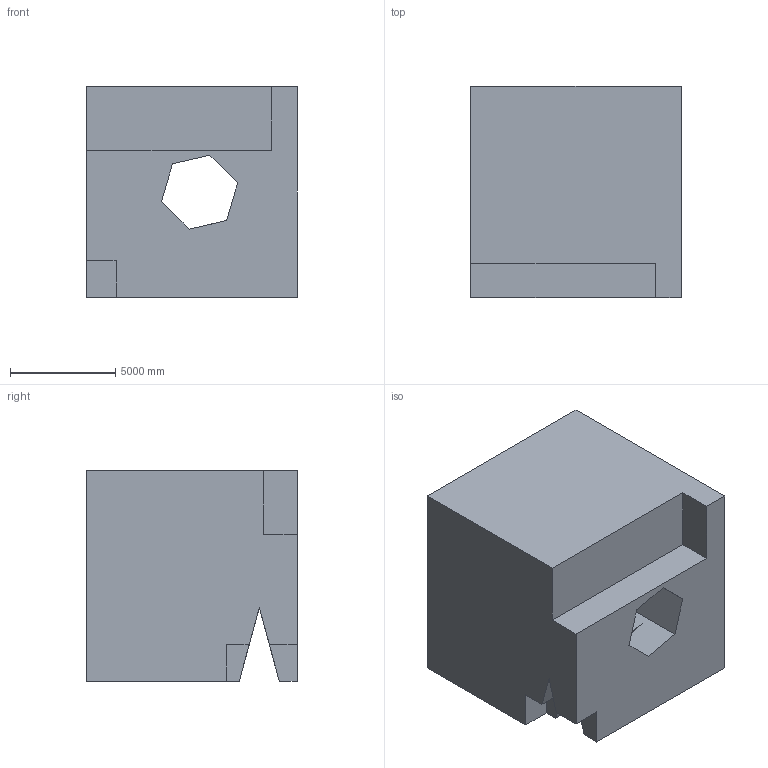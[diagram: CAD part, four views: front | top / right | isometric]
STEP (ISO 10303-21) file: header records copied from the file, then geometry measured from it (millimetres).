
FILE_DESCRIPTION (( 'STEP AP203' ), '1' );
FILE_NAME ('381.STEP', '2022-07-29T11:04:10', ( 'user' ), ( '' ), 'SwSTEP 2.0', 'SolidWorks 2021', '' );
FILE_SCHEMA (( 'CONFIG_CONTROL_DESIGN' ));
Length unit declared in the file: centimetre
Products named in the file (1): 381
Bounding box: 10000 x 10000 x 10000 mm (x, y, z)
Volume: 830613607586.9 mm3; surface area: 735789269 mm2
Topology: 1 solids, 1 shells, 23 faces, 69 edges, 46 vertices
Faces by surface type: plane 23
Entity records: 848 total; most frequent: CARTESIAN_POINT 139, ORIENTED_EDGE 138, DIRECTION 117, VECTOR 69, EDGE_CURVE 69, LINE 69, VERTEX_POINT 46, EDGE_LOOP 25
